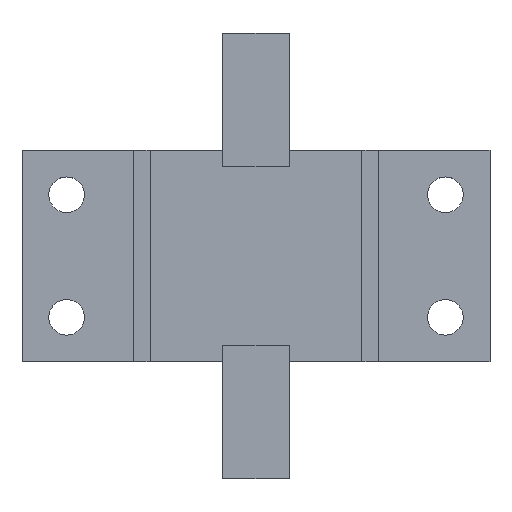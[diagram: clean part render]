
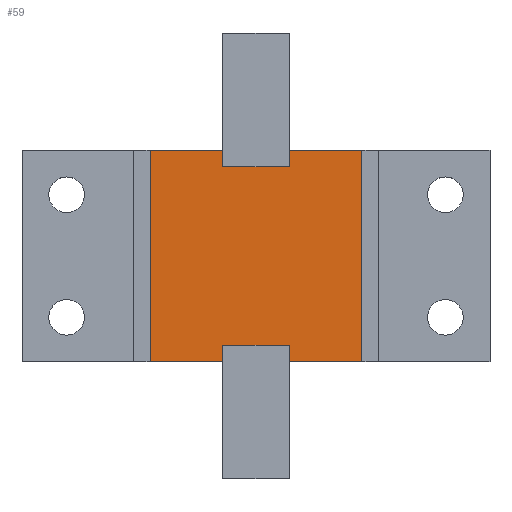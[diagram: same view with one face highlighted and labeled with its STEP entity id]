
A CAD part, top view. The second image highlights one B-rep face of the part: STEP entity #59.
In plain terms, the highlighted planar face has unit normal (0, 0, 1).
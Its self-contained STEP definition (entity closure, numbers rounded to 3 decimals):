
#59=ADVANCED_FACE('',(#330),#332,.T.);
#330=FACE_BOUND('',#331,.T.);
#331=EDGE_LOOP('',(#735,#736,#737,#738,#739,#740,#741,#742,#743,#744,#745,#746));
#332=PLANE('',#333);
#333=AXIS2_PLACEMENT_3D('',#334,#335,#336);
#334=CARTESIAN_POINT('',(0.,0.,4.7));
#335=DIRECTION('',(0.,0.,1.));
#336=DIRECTION('',(-1.,0.,0.));
#735=ORIENTED_EDGE('',*,*,#1024,.F.);
#736=ORIENTED_EDGE('',*,*,#1025,.F.);
#737=ORIENTED_EDGE('',*,*,#1026,.F.);
#738=ORIENTED_EDGE('',*,*,#1027,.T.);
#739=ORIENTED_EDGE('',*,*,#1028,.T.);
#740=ORIENTED_EDGE('',*,*,#1029,.T.);
#741=ORIENTED_EDGE('',*,*,#1030,.F.);
#742=ORIENTED_EDGE('',*,*,#1031,.F.);
#743=ORIENTED_EDGE('',*,*,#1032,.F.);
#744=ORIENTED_EDGE('',*,*,#1033,.T.);
#745=ORIENTED_EDGE('',*,*,#1034,.T.);
#746=ORIENTED_EDGE('',*,*,#1035,.T.);
#1024=EDGE_CURVE('',#1202,#1203,#1204,.T.);
#1025=EDGE_CURVE('',#1205,#1202,#1206,.T.);
#1026=EDGE_CURVE('',#1207,#1205,#1208,.T.);
#1027=EDGE_CURVE('',#1207,#1209,#1210,.T.);
#1028=EDGE_CURVE('',#1209,#1211,#1212,.T.);
#1029=EDGE_CURVE('',#1211,#1213,#1214,.T.);
#1030=EDGE_CURVE('',#1215,#1213,#1216,.T.);
#1031=EDGE_CURVE('',#1217,#1215,#1218,.T.);
#1032=EDGE_CURVE('',#1219,#1217,#1220,.T.);
#1033=EDGE_CURVE('',#1219,#1221,#1222,.T.);
#1034=EDGE_CURVE('',#1221,#1223,#1224,.T.);
#1035=EDGE_CURVE('',#1223,#1203,#1225,.T.);
#1202=VERTEX_POINT('',#1381);
#1203=VERTEX_POINT('',#1382);
#1204=LINE('',#1383,#1384);
#1205=VERTEX_POINT('',#1386);
#1206=LINE('',#1387,#1388);
#1207=VERTEX_POINT('',#1390);
#1208=LINE('',#1391,#1392);
#1209=VERTEX_POINT('',#1394);
#1210=LINE('',#1395,#1396);
#1211=VERTEX_POINT('',#1398);
#1212=LINE('',#1399,#1400);
#1213=VERTEX_POINT('',#1402);
#1214=LINE('',#1403,#1404);
#1215=VERTEX_POINT('',#1406);
#1216=LINE('',#1407,#1408);
#1217=VERTEX_POINT('',#1410);
#1218=LINE('',#1411,#1412);
#1219=VERTEX_POINT('',#1414);
#1220=LINE('',#1415,#1416);
#1221=VERTEX_POINT('',#1418);
#1222=LINE('',#1419,#1420);
#1223=VERTEX_POINT('',#1422);
#1224=LINE('',#1423,#1424);
#1225=LINE('',#1426,#1427);
#1381=CARTESIAN_POINT('',(3.,8.,4.7));
#1382=CARTESIAN_POINT('',(3.,9.5,4.7));
#1383=CARTESIAN_POINT('',(3.,8.,4.7));
#1384=VECTOR('',#1385,1.);
#1385=DIRECTION('',(0.,1.,0.));
#1386=CARTESIAN_POINT('',(-3.,8.,4.7));
#1387=CARTESIAN_POINT('',(-3.,8.,4.7));
#1388=VECTOR('',#1389,1.);
#1389=DIRECTION('',(1.,0.,0.));
#1390=CARTESIAN_POINT('',(-3.,9.5,4.7));
#1391=CARTESIAN_POINT('',(-3.,9.5,4.7));
#1392=VECTOR('',#1393,1.);
#1393=DIRECTION('',(0.,-1.,0.));
#1394=CARTESIAN_POINT('',(-9.5,9.5,4.7));
#1395=CARTESIAN_POINT('',(-3.,9.5,4.7));
#1396=VECTOR('',#1397,1.);
#1397=DIRECTION('',(-1.,0.,0.));
#1398=CARTESIAN_POINT('',(-9.5,-9.5,4.7));
#1399=CARTESIAN_POINT('',(-9.5,9.5,4.7));
#1400=VECTOR('',#1401,1.);
#1401=DIRECTION('',(0.,-1.,0.));
#1402=CARTESIAN_POINT('',(-3.,-9.5,4.7));
#1403=CARTESIAN_POINT('',(-9.5,-9.5,4.7));
#1404=VECTOR('',#1405,1.);
#1405=DIRECTION('',(1.,0.,0.));
#1406=CARTESIAN_POINT('',(-3.,-8.,4.7));
#1407=CARTESIAN_POINT('',(-3.,-8.,4.7));
#1408=VECTOR('',#1409,1.);
#1409=DIRECTION('',(0.,-1.,0.));
#1410=CARTESIAN_POINT('',(3.,-8.,4.7));
#1411=CARTESIAN_POINT('',(3.,-8.,4.7));
#1412=VECTOR('',#1413,1.);
#1413=DIRECTION('',(-1.,0.,0.));
#1414=CARTESIAN_POINT('',(3.,-9.5,4.7));
#1415=CARTESIAN_POINT('',(3.,-9.5,4.7));
#1416=VECTOR('',#1417,1.);
#1417=DIRECTION('',(0.,1.,0.));
#1418=CARTESIAN_POINT('',(9.5,-9.5,4.7));
#1419=CARTESIAN_POINT('',(3.,-9.5,4.7));
#1420=VECTOR('',#1421,1.);
#1421=DIRECTION('',(1.,0.,0.));
#1422=CARTESIAN_POINT('',(9.5,9.5,4.7));
#1423=CARTESIAN_POINT('',(9.5,-9.5,4.7));
#1424=VECTOR('',#1425,1.);
#1425=DIRECTION('',(0.,1.,0.));
#1426=CARTESIAN_POINT('',(9.5,9.5,4.7));
#1427=VECTOR('',#1428,1.);
#1428=DIRECTION('',(-1.,0.,0.));
